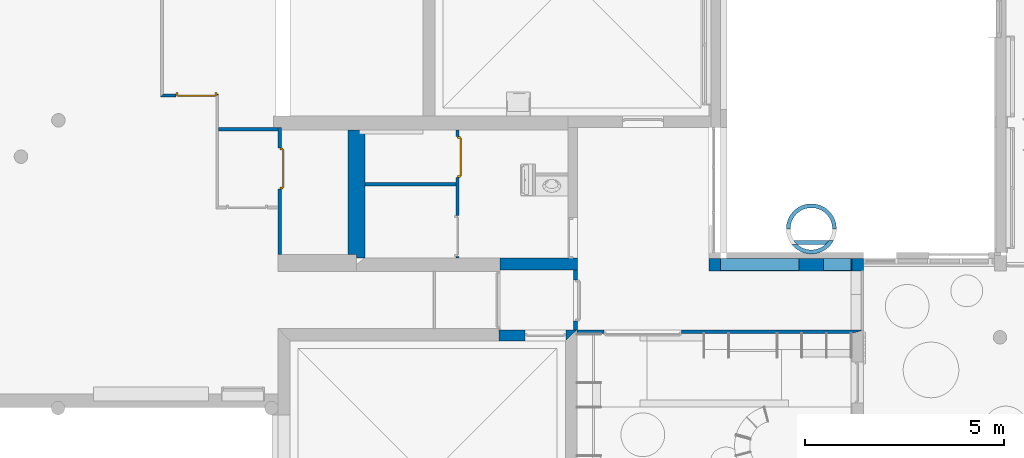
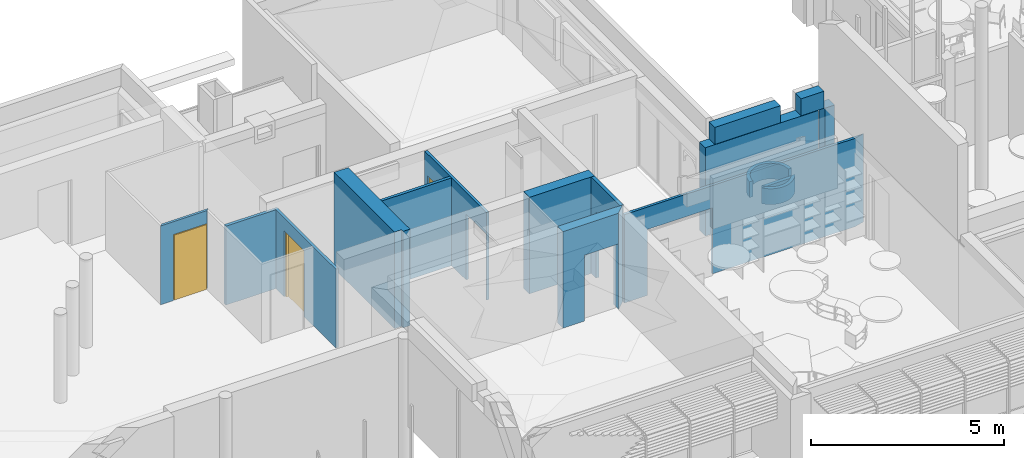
# One storey, part 22 of 64: 15 walls, 3 doors, 8 openings.
"""IFC2X3 building model written with IfcOpenShell, lengths in metres."""

from ifc_helpers import new_model, entity, si_unit, converted_unit, derived_unit, direction, frame, frame_2d, origin, origin_2d_with_axis, place, context, subcontext, project, spatial, polyline, circle_curve, parameter, trimmed, segment, composite_curve, rectangle, outline, extrude, faceted_brep, source, transform, mapped, material, layer, layer_set, layer_usage, type_object, type_shapes, element, fill, save


model = new_model("IFC2X3")

# Units and contexts
model_context = context("Model", 3, precision=1e-05, world=origin(), true_north=direction((6.123031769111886e-17, 1.0)))
body_context = subcontext(model_context, "Body", "Model", "MODEL_VIEW")
ifc_project = project(units=[si_unit("LENGTHUNIT", "METRE"), si_unit("AREAUNIT", "SQUARE_METRE"), si_unit("VOLUMEUNIT", "CUBIC_METRE"), converted_unit("PLANEANGLEUNIT", "DEGREE", entity("IfcRatioMeasure", 0.017453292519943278), si_unit("PLANEANGLEUNIT", "RADIAN"), dimensions=[0, 0, 0, 0, 0, 0, 0]), si_unit("MASSUNIT", "GRAM", prefix="KILO"), derived_unit("MASSDENSITYUNIT", [(si_unit("MASSUNIT", "GRAM", prefix="KILO"), 1), (si_unit("LENGTHUNIT", "METRE"), -3)]), derived_unit("MOMENTOFINERTIAUNIT", [(si_unit("LENGTHUNIT", "METRE"), 4)]), si_unit("TIMEUNIT", "SECOND"), si_unit("FREQUENCYUNIT", "HERTZ"), si_unit("THERMODYNAMICTEMPERATUREUNIT", "DEGREE_CELSIUS"), derived_unit("THERMALTRANSMITTANCEUNIT", [(si_unit("MASSUNIT", "GRAM", prefix="KILO"), 1), (si_unit("THERMODYNAMICTEMPERATUREUNIT", "KELVIN"), -1), (si_unit("TIMEUNIT", "SECOND"), -3)]), derived_unit("THERMALCONDUCTANCEUNIT", [(si_unit("MASSUNIT", "GRAM", prefix="KILO"), 1), (si_unit("LENGTHUNIT", "METRE"), 1), (si_unit("THERMODYNAMICTEMPERATUREUNIT", "KELVIN"), -1), (si_unit("TIMEUNIT", "SECOND"), -3)]), derived_unit("VOLUMETRICFLOWRATEUNIT", [(si_unit("LENGTHUNIT", "METRE"), 3), (si_unit("TIMEUNIT", "SECOND"), -1)]), derived_unit("MASSFLOWRATEUNIT", [(si_unit("MASSUNIT", "GRAM", prefix="KILO"), 1), (si_unit("TIMEUNIT", "SECOND"), -1)]), derived_unit("ROTATIONALFREQUENCYUNIT", [(si_unit("TIMEUNIT", "SECOND"), -1)]), si_unit("ELECTRICCURRENTUNIT", "AMPERE"), si_unit("ELECTRICVOLTAGEUNIT", "VOLT"), si_unit("POWERUNIT", "WATT"), si_unit("FORCEUNIT", "NEWTON", prefix="KILO"), si_unit("ILLUMINANCEUNIT", "LUX"), si_unit("LUMINOUSFLUXUNIT", "LUMEN"), si_unit("LUMINOUSINTENSITYUNIT", "CANDELA"), derived_unit("USERDEFINED", [(si_unit("MASSUNIT", "GRAM", prefix="KILO"), -1), (si_unit("LENGTHUNIT", "METRE"), -2), (si_unit("TIMEUNIT", "SECOND"), 3), (si_unit("LUMINOUSFLUXUNIT", "LUMEN"), 1)]), derived_unit("USERDEFINED", [(si_unit("MASSUNIT", "GRAM", prefix="KILO"), 1), (si_unit("LENGTHUNIT", "METRE"), 3), (si_unit("TIMEUNIT", "SECOND"), -3), (si_unit("ELECTRICCURRENTUNIT", "AMPERE"), -2)]), derived_unit("USERDEFINED", [(si_unit("LENGTHUNIT", "METRE"), 2), (si_unit("TIMEUNIT", "SECOND"), -2)]), derived_unit("SOUNDPOWERUNIT", [(si_unit("MASSUNIT", "GRAM", prefix="KILO"), 1), (si_unit("LENGTHUNIT", "METRE"), 2), (si_unit("TIMEUNIT", "SECOND"), -3)]), derived_unit("SOUNDPRESSUREUNIT", [(si_unit("MASSUNIT", "GRAM", prefix="KILO"), 1), (si_unit("LENGTHUNIT", "METRE"), -1), (si_unit("TIMEUNIT", "SECOND"), -2)]), derived_unit("LINEARVELOCITYUNIT", [(si_unit("LENGTHUNIT", "METRE"), 1), (si_unit("TIMEUNIT", "SECOND"), -1)]), si_unit("PRESSUREUNIT", "PASCAL"), derived_unit("USERDEFINED", [(si_unit("LENGTHUNIT", "METRE"), -2), (si_unit("MASSUNIT", "GRAM", prefix="KILO"), 1), (si_unit("TIMEUNIT", "SECOND"), -2)]), derived_unit("LINEARFORCEUNIT", [(si_unit("MASSUNIT", "GRAM", prefix="KILO"), 1), (si_unit("LENGTHUNIT", "METRE"), 1), (si_unit("TIMEUNIT", "SECOND"), -2), (si_unit("LENGTHUNIT", "METRE"), -1)]), derived_unit("PLANARFORCEUNIT", [(si_unit("MASSUNIT", "GRAM", prefix="KILO"), 1), (si_unit("LENGTHUNIT", "METRE"), 1), (si_unit("TIMEUNIT", "SECOND"), -2), (si_unit("LENGTHUNIT", "METRE"), -2)]), derived_unit("SPECIFICHEATCAPACITYUNIT", [(si_unit("LENGTHUNIT", "METRE"), 2), (si_unit("TIMEUNIT", "SECOND"), -2), (si_unit("THERMODYNAMICTEMPERATUREUNIT", "KELVIN"), -1)]), derived_unit("VAPORPERMEABILITYUNIT", [(si_unit("TIMEUNIT", "SECOND"), 1), (si_unit("LENGTHUNIT", "METRE"), -1)]), derived_unit("DYNAMICVISCOSITYUNIT", [(si_unit("MASSUNIT", "GRAM", prefix="KILO"), 1), (si_unit("LENGTHUNIT", "METRE"), -1), (si_unit("TIMEUNIT", "SECOND"), -1)]), derived_unit("THERMALEXPANSIONCOEFFICIENTUNIT", [(si_unit("THERMODYNAMICTEMPERATUREUNIT", "KELVIN"), -1)])], contexts=[model_context])

# Site, building, storey
site_placement = place(None, origin())
site = spatial("IfcSite", under=ifc_project, at=site_placement, Name="Default", CompositionType="ELEMENT")
building_placement = place(site_placement, origin())
building = spatial("IfcBuilding", under=site, at=building_placement, CompositionType="ELEMENT")
storey_placement = place(building_placement, origin())
storey = spatial("IfcBuildingStorey", under=building, at=storey_placement, Name="REZ-DE-CHAUSSÉE", CompositionType="ELEMENT", Elevation=0.0)

# Wall
wall_type_1 = type_object("IfcWallType", Name="MurExt-016", PredefinedType="NOTDEFINED")
wall_1_placement = place(storey_placement, frame((113.79075227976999, 15.007209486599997, 2.8)))
element("IfcWall", 1, at=wall_1_placement, inside=storey, type_object=wall_type_1, Name="MurExt-016 256304:MurExt-016 256304", ObjectType="MurExt-016 256304:MurExt-016 256304", context=body_context, shape_type="SweptSolid", body=[
    extrude(outline(polyline([(-0.3450000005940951, -0.15000000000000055), (0.34500000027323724, -0.15000000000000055), (0.34500000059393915, 0.15000000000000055), (-0.3450000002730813, 0.15000000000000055), (-0.3450000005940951, -0.15000000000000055)])), frame((2.935000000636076, 0.15000000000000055, 0.0)), (0.0, 0.0, 1.0), 0.5400000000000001),
    extrude(outline(polyline([(-0.9850000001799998, -0.15000000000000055), (0.9849999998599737, -0.15000000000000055), (0.9850000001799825, 0.15000000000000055), (-0.9849999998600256, 0.15000000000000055), (-0.9850000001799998, -0.15000000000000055)])), frame((0.9850000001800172, 0.15000000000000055, 0.0)), (0.0, 0.0, 1.0), 0.5400000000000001),
])

# Wall, opening
ifc_material_1 = material(Name="Appareillage - Pierre taillé")
ifc_layer_1 = layer(ifc_material_1, 0.31)
ifc_layer_set_1 = layer_set([ifc_layer_1], Name="Mur de base:Struct. - Pierre 310")
ifc_layer_usage_1 = layer_usage(ifc_layer_set_1, "AXIS2", "NEGATIVE", 0.155)
wall_type_2 = type_object("IfcWallType", Name="Mur de base:Struct. - Pierre 310", PredefinedType="STANDARD", material=ifc_layer_set_1)
wall_2_placement = place(storey_placement, frame((113.50075228, 15.1522094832, 0.0)))
wall_2 = element("IfcWallStandardCase", 2, at=wall_2_placement, inside=storey, type_object=wall_type_2, material=ifc_layer_usage_1, Name="MurExt-003", ObjectType="Mur de base:Struct. - Pierre 310", context=body_context, shape_type="SweptSolid", body=[
    extrude(rectangle(XDim=3.8800000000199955, YDim=0.310000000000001, at=frame_2d((1.9400000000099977, -1.0824674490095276e-15), x_axis=(-1.0, 0.0))), origin(), (0.0, 0.0, 1.0), 2.8),
])
opening_1_placement = place(wall_2_placement, origin())
element("IfcOpeningElement", 3, at=opening_1_placement, cuts=wall_2, Name="MurExt-003", ObjectType="Opening", context=body_context, shape_type="SweptSolid", body=[
    extrude(rectangle(XDim=2.76, YDim=0.1999999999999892, at=origin_2d_with_axis()), frame((3.48999999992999, -0.4650000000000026, 1.42), z_axis=(0.0, 1.0, 0.0), x_axis=(0.0, 0.0, 1.0)), (0.0, 0.0, 1.0), 0.620000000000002),
])

# Wall
wall_3_placement = place(storey_placement, frame((108.240752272, 15.1722094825, 0.0)))
element("IfcWallStandardCase", 4, at=wall_3_placement, inside=storey, type_object=wall_type_2, material=ifc_layer_usage_1, Name="MurExt-003", ObjectType="Mur de base:Struct. - Pierre 310", context=body_context, shape_type="SweptSolid", body=[
    extrude(rectangle(XDim=1.9500000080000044, YDim=0.30999999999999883, at=frame_2d((0.9750000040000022, 0.0), x_axis=(-1.0, 0.0))), origin(), (0.0, 0.0, 1.0), 3.06),
])

# Wall, opening
ifc_layer_2 = layer(ifc_material_1, 0.28)
ifc_layer_set_2 = layer_set([ifc_layer_2], Name="Mur de base:Struct. - Pierre 280")
ifc_layer_usage_2 = layer_usage(ifc_layer_set_2, "AXIS2", "NEGATIVE", 0.14)
wall_type_3 = type_object("IfcWallType", Name="Mur de base:Struct. - Pierre 280", PredefinedType="STANDARD", material=ifc_layer_set_2)
wall_4_placement = place(storey_placement, frame((108.21575227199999, 13.377209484, 0.0)))
wall_4 = element("IfcWallStandardCase", 5, at=wall_4_placement, inside=storey, type_object=wall_type_3, material=ifc_layer_usage_2, Name="MurExt-006", ObjectType="Mur de base:Struct. - Pierre 280", context=body_context, shape_type="SweptSolid", body=[
    extrude(outline(polyline([(0.0, -0.1399999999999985), (1.6650000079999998, -0.1399999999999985), (1.9550000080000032, 0.14000000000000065), (1.875000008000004, 0.14000000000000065), (0.02499999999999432, 0.14000000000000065), (0.0, 0.14000000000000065), (0.0, -0.1399999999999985)])), origin(), (0.0, 0.0, 1.0), 3.0600000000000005),
])
opening_2_placement = place(wall_4_placement, frame((-108.21575227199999, -13.377209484, 0.0)))
element("IfcOpeningElement", 6, at=opening_2_placement, cuts=wall_4, Name="MurExt-006", ObjectType="Opening", context=body_context, shape_type="SweptSolid", body=[
    extrude(rectangle(XDim=2.09, YDim=1.0300000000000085, at=origin_2d_with_axis()), frame((109.38075228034, 13.081409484, 1.045), z_axis=(0.0, 1.0, 0.0), x_axis=(0.0, 0.0, -1.0)), (0.0, 0.0, 1.0), 0.5915999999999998),
])

# Walls
ifc_material_2 = material(Name="Béton - Parpaing (Blocs)")
ifc_layer_3 = layer(ifc_material_2, 0.1)
ifc_layer_set_3 = layer_set([ifc_layer_3], Name="Mur de base:Struct. - Parpaing béton 100")
ifc_layer_usage_3 = layer_usage(ifc_layer_set_3, "AXIS2", "NEGATIVE", 0.05)
wall_type_4 = type_object("IfcWallType", Name="Mur de base:Struct. - Parpaing béton 100", PredefinedType="STANDARD", material=ifc_layer_set_3)
wall_5_placement = place(storey_placement, frame((116.51437374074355, 15.717209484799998, -0.1), z_axis=(0.0, 0.0, 1.0), x_axis=(-1.0, 0.0, 0.0)))
element("IfcWallStandardCase", 7, at=wall_5_placement, inside=storey, type_object=wall_type_4, material=ifc_layer_usage_3, Name="MurExt-004", ObjectType="Mur de base:Struct. - Parpaing béton 100", context=body_context, shape_type="SweptSolid", body=[
    extrude(outline(composite_curve([segment(trimmed(circle_curve(frame_2d((0.443621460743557, -0.33999999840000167), x_axis=(1.0, 0.0)), 0.53), [parameter(33.17306581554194)], [parameter(47.379008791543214)], True, "PARAMETER"), True, "CONTINUOUS"), segment(polyline([(0.8025086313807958, 0.04999999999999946), (0.08473429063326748, 0.04999999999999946)]), True, "CONTINUOUS"), segment(trimmed(circle_curve(frame_2d((0.4436214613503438, -0.3399999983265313), x_axis=(0.7853534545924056, 0.6190476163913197)), 0.53), [parameter(94.37437153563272)], [parameter(108.58031450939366)], True, "PARAMETER"), True, "CONTINUOUS"), segment(polyline([(0.0, -0.050000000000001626), (0.8872429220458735, -0.050000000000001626)]), True, "CONTINUOUS")], self_intersect=False)), origin(), (0.0, 0.0, 1.0), 0.49999999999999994),
])
ifc_layer_4 = layer(ifc_material_1, 0.41999999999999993)
ifc_layer_set_4 = layer_set([ifc_layer_4], Name="Mur de base:Struct. - Pierre 420")
ifc_layer_usage_4 = layer_usage(ifc_layer_set_4, "AXIS2", "NEGATIVE", 0.20999999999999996)
wall_type_5 = type_object("IfcWallType", Name="Mur de base:Struct. - Pierre 420", PredefinedType="STANDARD", material=ifc_layer_set_4)
wall_6_placement = place(storey_placement, frame((104.63075228, 18.5372094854, 0.0), z_axis=(0.0, 0.0, 1.0), x_axis=(0.0, -1.0, 0.0)))
element("IfcWallStandardCase", 8, at=wall_6_placement, inside=storey, type_object=wall_type_5, material=ifc_layer_usage_4, Name="MurExt-004", ObjectType="Mur de base:Struct. - Pierre 420", context=body_context, shape_type="SweptSolid", body=[
    extrude(outline(polyline([(-0.26250000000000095, 1.206250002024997), (-0.26250000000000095, -1.9237500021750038), (0.15750000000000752, -1.9237500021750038), (0.15750000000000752, -0.6137500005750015), (0.15750000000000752, -0.5237500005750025), (0.15750000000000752, 1.2862500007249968), (-0.05249999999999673, 1.2862500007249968), (-0.05249999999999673, 1.206250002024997), (-0.26250000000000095, 1.206250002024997)])), frame((1.9237500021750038, 0.05249999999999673, 0.0), z_axis=(0.0, 0.0, -1.0), x_axis=(0.0, 1.0, 0.0)), (0.0, 0.0, -1.0), 3.06),
])

# Wall, opening
ifc_layer_5 = layer(ifc_material_1, 0.1)
ifc_layer_set_5 = layer_set([ifc_layer_5], Name="Mur de base:Struct. - Pierre 100")
ifc_layer_usage_5 = layer_usage(ifc_layer_set_5, "AXIS2", "NEGATIVE", 0.05)
wall_type_6 = type_object("IfcWallType", Name="Mur de base:Struct. - Pierre 100", PredefinedType="STANDARD", material=ifc_layer_set_5)
wall_7_placement = place(storey_placement, frame((110.14075227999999, 15.017209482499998, 0.0), z_axis=(0.0, 0.0, 1.0), x_axis=(0.0, -1.0, 0.0)))
wall_7 = element("IfcWallStandardCase", 9, at=wall_7_placement, inside=storey, type_object=wall_type_6, material=ifc_layer_usage_5, Name="MurExt-004", ObjectType="Mur de base:Struct. - Pierre 100", context=body_context, shape_type="SweptSolid", body=[
    extrude(rectangle(XDim=1.4999999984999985, YDim=0.10000000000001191, at=frame_2d((0.7499999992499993, 0.0), x_axis=(-1.0, 0.0))), origin(), (0.0, 0.0, 1.0), 3.06),
])
opening_3_placement = place(wall_7_placement, frame((15.017209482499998, -110.14075227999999, 0.0), z_axis=(0.0, 0.0, 1.0), x_axis=(0.0, 1.0, 0.0)))
element("IfcOpeningElement", 10, at=opening_3_placement, cuts=wall_7, Name="MurExt-004", ObjectType="Opening", context=body_context, shape_type="SweptSolid", body=[
    extrude(rectangle(XDim=2.09, YDim=1.0299999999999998, at=frame_2d((0.0, 0.0), x_axis=(0.0, 1.0))), frame((109.75315227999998, 14.257209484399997, 1.045), z_axis=(1.0, 0.0, 0.0), x_axis=(0.0, -1.0, 0.0)), (0.0, 0.0, 1.0), 0.775199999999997),
])

# Walls
ifc_layer_usage_6 = layer_usage(ifc_layer_set_5, "AXIS2", "POSITIVE", -0.05)
wall_8_placement = place(storey_placement, frame((115.49075228, 16.057209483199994, -0.1)))
element("IfcWallStandardCase", 11, at=wall_8_placement, inside=storey, type_object=wall_type_6, material=ifc_layer_usage_6, Name="MurExt-003", ObjectType="Mur de base:Struct. - Pierre 100", context=body_context, shape_type="SweptSolid", body=[
    extrude(outline(composite_curve([segment(trimmed(circle_curve(frame_2d((0.5800000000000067, 0.0), x_axis=(1.0, 0.0)), 0.63), [parameter(359.9999947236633)], [parameter(180.00000000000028)], True, "PARAMETER"), True, "CONTINUOUS"), segment(polyline([(-0.04999999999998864, 0.0), (0.050000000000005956, 0.0)]), True, "CONTINUOUS"), segment(trimmed(circle_curve(frame_2d((0.5800000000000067, 0.0), x_axis=(1.0, 0.0)), 0.53), [parameter(359.9999947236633)], [parameter(180.00000000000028)], True, "PARAMETER"), False, "CONTINUOUS"), segment(polyline([(1.1100000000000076, -4.880739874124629e-08), (1.2100000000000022, -5.80163477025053e-08)]), True, "CONTINUOUS")], self_intersect=False)), origin(), (0.0, 0.0, 1.0), 0.49999999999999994),
])
wall_9_placement = place(storey_placement, frame((116.5856498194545, 15.790225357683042, -0.1), z_axis=(0.0, 0.0, 1.0), x_axis=(-0.7853534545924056, -0.6190476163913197, 0.0)))
element("IfcWallStandardCase", 12, at=wall_9_placement, inside=storey, type_object=wall_type_6, material=ifc_layer_usage_6, Name="MurExt-004", ObjectType="Mur de base:Struct. - Pierre 100", context=body_context, shape_type="SweptSolid", body=[
    extrude(outline(composite_curve([segment(trimmed(circle_curve(frame_2d((0.23910067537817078, -0.5284230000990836), x_axis=(1.0, 0.0)), 0.63), [parameter(359.9999999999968)], [parameter(114.34578595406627)], True, "PARAMETER"), True, "CONTINUOUS"), segment(polyline([(-0.0206121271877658, 0.045553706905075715), (0.07022483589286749, -0.026047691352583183)]), True, "CONTINUOUS"), segment(trimmed(circle_curve(frame_2d((0.23910067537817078, -0.5284230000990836), x_axis=(1.0, 0.0)), 0.53), [parameter(94.37437153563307)], [parameter(108.58031450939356)], True, "PARAMETER"), False, "CONTINUOUS"), segment(trimmed(circle_curve(frame_2d((0.23910067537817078, -0.5284230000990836), x_axis=(1.0, 0.0)), 0.53), [parameter(9.132389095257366)], [parameter(94.37437153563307)], True, "PARAMETER"), False, "CONTINUOUS"), segment(polyline([(0.7623825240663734, -0.444303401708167), (0.8691006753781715, -0.5284230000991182)]), True, "CONTINUOUS")], self_intersect=False)), origin(), (0.0, 0.0, 1.0), 0.49999999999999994),
])

# Wall, opening, door
ifc_layer_6 = layer(ifc_material_1, 0.07)
ifc_layer_set_6 = layer_set([ifc_layer_6], Name="Mur de base:Struct. - Pierre 70")
ifc_layer_usage_7 = layer_usage(ifc_layer_set_6, "AXIS2", "NEGATIVE", 0.035)
wall_type_7 = type_object("IfcWallType", Name="Mur de base:Struct. - Pierre 70", PredefinedType="STANDARD", material=ifc_layer_set_6)
wall_10_placement = place(storey_placement, frame((101.16075237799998, 19.4122095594, 0.0), z_axis=(0.0, 0.0, 1.0), x_axis=(-1.0, 0.0, 0.0)))
wall_10 = element("IfcWallStandardCase", 13, at=wall_10_placement, inside=storey, type_object=wall_type_7, material=ifc_layer_usage_7, Name="MurExt-015", ObjectType="Mur de base:Struct. - Pierre 70", context=body_context, shape_type="SweptSolid", body=[
    extrude(outline(polyline([(0.0, -0.03499999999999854), (1.3900002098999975, -0.03499999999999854), (1.4600002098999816, 0.035000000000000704), (0.06999999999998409, 0.035000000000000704), (0.0, -0.03499999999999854)])), origin(), (0.0, 0.0, 1.0), 2.4999999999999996),
])
opening_4_placement = place(wall_10_placement, frame((101.16075237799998, 19.4122095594, 0.0), z_axis=(0.0, 0.0, 1.0), x_axis=(-1.0, 0.0, 0.0)))
opening_4 = element("IfcOpeningElement", 14, at=opening_4_placement, cuts=wall_10, Name="MurExt-015", ObjectType="Opening", context=body_context, shape_type="SweptSolid", body=[
    extrude(rectangle(XDim=2.09, YDim=1.0300000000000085, at=frame_2d((0.0, 0.0), x_axis=(0.0, 1.0))), frame((100.601130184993, 19.483609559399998, 1.045), z_axis=(0.0, -1.0, 0.0), x_axis=(-1.0, 0.0, 0.0)), (0.0, 0.0, 1.0), 0.14279999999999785),
])
ifc_material_3 = material(Name="Peinture - Gris clair")
door_style_1 = type_object("IfcDoorStyle", Name="Por-007", ConstructionType="NOTDEFINED", OperationType="SINGLE_SWING_LEFT", ParameterTakesPrecedence=False, Sizeable=False, material=ifc_material_3)
shared_shape_1 = source(origin(), body_context, "Body", "Brep", [
    faceted_brep([(0.0, -0.0714, 0.0), (0.0, -0.0714, 2.09), (1.03, -0.0714, 2.09), (1.03, -0.0714, 0.0), (0.995, -0.0714, 0.0), (0.995, -0.0714, 2.055), (0.03500000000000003, -0.0714, 2.055), (0.03500000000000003, -0.0714, 0.0), (0.0, -0.1414, 0.0), (0.0, -0.1414, 2.09), (1.03, -0.1414, 2.09), (1.03, -0.1414, 0.0), (0.98, -0.1414, 0.0), (0.98, -0.0864, 0.0), (0.995, -0.0864, 0.0), (0.995, -0.0864, 2.055), (0.03500000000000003, -0.0864, 2.055), (0.03500000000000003, -0.0864, 0.0), (0.05, -0.0864, 0.0), (0.05, -0.1414, 0.0), (0.98, -0.1414, 2.04), (0.05, -0.1414, 2.04), (0.98, -0.0864, 2.04), (0.05, -0.0864, 2.04), (0.03500000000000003, -0.046400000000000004, 0.0), (0.995, -0.046400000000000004, 0.0), (0.03500000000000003, -0.046400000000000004, 2.055), (0.995, -0.046400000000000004, 2.055)], [[[0, 1, 2, 3, 4, 5, 6, 7]], [[8, 9, 1, 0]], [[9, 10, 2, 1]], [[10, 11, 3, 2]], [[3, 11, 12, 13, 14, 4]], [[5, 4, 14, 15]], [[6, 5, 15, 16]], [[7, 6, 16, 17]], [[0, 7, 17, 18, 19, 8]], [[19, 8, 9, 10, 11, 12, 20, 21]], [[22, 13, 12, 20]], [[17, 16, 15, 14, 13, 22, 23, 18]], [[18, 23, 21, 19]], [[23, 22, 20, 21]], [[24, 25, 14, 17]], [[24, 26, 27, 25]], [[25, 27, 15, 14]], [[17, 14, 15, 16]], [[26, 24, 17, 16]], [[27, 26, 16, 15]]]),
])
type_shapes(door_style_1, [shared_shape_1])
door_1_placement = place(opening_4_placement, frame((101.11613018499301, 19.3408095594, 0.0), z_axis=(0.0, 0.0, 1.0), x_axis=(-1.0, 0.0, 0.0)))
door_1 = element("IfcDoor", 15, at=door_1_placement, inside=storey, type_object=door_style_1, material=ifc_material_3, Name="Por-007 19986:Por-007 19986", ObjectType="Por-007 19986:Por-007 19986", OverallHeight=2.09, OverallWidth=1.0300000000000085, context=body_context, shape_type="MappedRepresentation", body=[
    mapped(shared_shape_1, transform((0.0, 0.0, 0.0), scale=1.0)),
])
fill(opening_4, door_1)

ifc_layer_7 = layer(ifc_material_1, 0.08)
ifc_layer_set_7 = layer_set([ifc_layer_7], Name="Mur de base:Struct. - Pierre 80")
ifc_layer_usage_8 = layer_usage(ifc_layer_set_7, "AXIS2", "NEGATIVE", 0.04)
wall_type_8 = type_object("IfcWallType", Name="Mur de base:Struct. - Pierre 80", PredefinedType="STANDARD", material=ifc_layer_set_7)
wall_11_placement = place(storey_placement, frame((102.70075228, 15.407209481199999, 0.0), z_axis=(0.0, 0.0, 1.0), x_axis=(0.0, 1.0, 0.0)))
wall_11 = element("IfcWallStandardCase", 16, at=wall_11_placement, inside=storey, type_object=wall_type_8, material=ifc_layer_usage_8, Name="MurExt-012", ObjectType="Mur de base:Struct. - Pierre 80", context=body_context, shape_type="SweptSolid", body=[
    extrude(rectangle(XDim=3.1999999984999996, YDim=0.08000000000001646, at=frame_2d((1.5999999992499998, 0.0), x_axis=(-1.0, 0.0))), origin(), (0.0, 0.0, 1.0), 2.4999999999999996),
])
opening_5_placement = place(wall_11_placement, frame((-15.407209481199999, 102.70075228, 0.0), z_axis=(0.0, 0.0, 1.0), x_axis=(0.0, -1.0, 0.0)))
opening_5 = element("IfcOpeningElement", 17, at=opening_5_placement, cuts=wall_11, Name="MurExt-012", ObjectType="Opening", context=body_context, shape_type="SweptSolid", body=[
    extrude(rectangle(XDim=2.09, YDim=1.0299999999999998, at=origin_2d_with_axis()), frame((102.78235228, 17.57720948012, 1.045), z_axis=(-1.0, 0.0, 0.0), x_axis=(0.0, 0.0, -1.0)), (0.0, 0.0, 1.0), 0.16319999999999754),
])
door_style_2 = type_object("IfcDoorStyle", Name="Por-005", ConstructionType="NOTDEFINED", OperationType="SINGLE_SWING_LEFT", ParameterTakesPrecedence=False, Sizeable=False, material=ifc_material_3)
shared_shape_2 = source(origin(), body_context, "Body", "Brep", [
    faceted_brep([(0.0, 0.16159999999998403, 0.0), (0.0, 0.16159999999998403, 2.09), (1.0300000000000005, 0.16159999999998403, 2.09), (1.0300000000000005, 0.16159999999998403, 0.0), (0.9950000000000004, 0.16159999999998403, 0.0), (0.9950000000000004, 0.16159999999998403, 2.055), (0.0350000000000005, 0.16159999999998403, 2.055), (0.0350000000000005, 0.16159999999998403, 0.0), (0.0, 0.08159999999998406, 0.0), (0.0, 0.08159999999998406, 2.09), (1.0300000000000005, 0.08159999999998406, 2.09), (1.0300000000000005, 0.08159999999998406, 0.0), (0.9800000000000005, 0.08159999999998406, 0.0), (0.9800000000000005, 0.14659999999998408, 0.0), (0.9950000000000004, 0.14659999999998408, 0.0), (0.9950000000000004, 0.14659999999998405, 2.055), (0.0350000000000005, 0.14659999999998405, 2.055), (0.0350000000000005, 0.14659999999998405, 0.0), (0.050000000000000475, 0.14659999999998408, 0.0), (0.050000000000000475, 0.08159999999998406, 0.0), (0.9800000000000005, 0.08159999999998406, 2.04), (0.050000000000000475, 0.08159999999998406, 2.04), (0.9800000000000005, 0.14659999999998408, 2.04), (0.050000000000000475, 0.14659999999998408, 2.04), (0.0350000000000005, 0.18659999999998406, 0.0), (0.9950000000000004, 0.18659999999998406, 0.0), (0.0350000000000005, 0.18659999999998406, 2.055), (0.9950000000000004, 0.18659999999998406, 2.055)], [[[0, 1, 2, 3, 4, 5, 6, 7]], [[8, 9, 1, 0]], [[9, 10, 2, 1]], [[10, 11, 3, 2]], [[3, 11, 12, 13, 14, 4]], [[5, 4, 14, 15]], [[6, 5, 15, 16]], [[7, 6, 16, 17]], [[0, 7, 17, 18, 19, 8]], [[19, 8, 9, 10, 11, 12, 20, 21]], [[22, 13, 12, 20]], [[17, 16, 15, 14, 13, 22, 23, 18]], [[18, 23, 21, 19]], [[23, 22, 20, 21]], [[24, 25, 14, 17]], [[24, 26, 27, 25]], [[25, 27, 15, 14]], [[17, 14, 15, 16]], [[26, 24, 17, 16]], [[27, 26, 16, 15]]]),
])
type_shapes(door_style_2, [shared_shape_2])
door_2_placement = place(opening_5_placement, frame((102.61915228, 18.09220948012, 0.0), z_axis=(0.0, 0.0, 1.0), x_axis=(0.0, -1.0, 0.0)))
door_2 = element("IfcDoor", 18, at=door_2_placement, inside=storey, type_object=door_style_2, material=ifc_material_3, Name="Por-005 20335:Por-005 20335", ObjectType="Por-005 20335:Por-005 20335", OverallHeight=2.09, OverallWidth=1.0299999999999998, context=body_context, shape_type="MappedRepresentation", body=[
    mapped(shared_shape_2, transform((0.0, 0.0, 0.0), scale=1.0)),
])
fill(opening_5, door_2)

# Wall, openings, door
wall_12_placement = place(storey_placement, frame((107.17075227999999, 18.5372094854, 0.0), z_axis=(0.0, 0.0, 1.0), x_axis=(0.0, -1.0, 0.0)))
wall_12 = element("IfcWallStandardCase", 19, at=wall_12_placement, inside=storey, type_object=wall_type_8, material=ifc_layer_usage_8, Name="MurExt-018", ObjectType="Mur de base:Struct. - Pierre 80", context=body_context, shape_type="SweptSolid", body=[
    extrude(rectangle(XDim=3.2100000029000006, YDim=0.08000000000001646, at=frame_2d((1.6050000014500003, 0.0), x_axis=(-1.0, 0.0))), origin(), (0.0, 0.0, 1.0), 2.78),
])
opening_6_placement = place(wall_12_placement, frame((18.5372094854, -107.17075227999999, 0.0), z_axis=(0.0, 0.0, 1.0), x_axis=(0.0, 1.0, 0.0)))
opening_6 = element("IfcOpeningElement", 20, at=opening_6_placement, cuts=wall_12, Name="MurExt-018", ObjectType="Opening", context=body_context, shape_type="SweptSolid", body=[
    extrude(rectangle(XDim=2.09, YDim=1.0299999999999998, at=frame_2d((0.0, 0.0), x_axis=(0.0, 1.0))), frame((107.08915228, 17.86720948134, 1.045), z_axis=(1.0, 0.0, 0.0), x_axis=(0.0, -1.0, 0.0)), (0.0, 0.0, 1.0), 0.16319999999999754),
])
opening_7_placement = place(wall_12_placement, frame((18.5372094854, -107.17075227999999, 0.0), z_axis=(0.0, 0.0, 1.0), x_axis=(0.0, 1.0, 0.0)))
element("IfcOpeningElement", 21, at=opening_7_placement, cuts=wall_12, Name="MurExt-018", ObjectType="Opening", context=body_context, shape_type="SweptSolid", body=[
    extrude(rectangle(XDim=2.09, YDim=1.0299999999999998, at=origin_2d_with_axis()), frame((107.08915228, 15.877209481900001, 1.045), z_axis=(1.0, 0.0, 0.0), x_axis=(0.0, 0.0, 1.0)), (0.0, 0.0, 1.0), 0.16319999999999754),
])
door_3_placement = place(opening_6_placement, frame((107.08915228, 18.38220948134, 0.0), z_axis=(0.0, 0.0, 1.0), x_axis=(0.0, -1.0, 0.0)))
door_3 = element("IfcDoor", 22, at=door_3_placement, inside=storey, type_object=door_style_2, material=ifc_material_3, Name="Por-005 20335:Por-005 20335", ObjectType="Por-005 20335:Por-005 20335", OverallHeight=2.09, OverallWidth=1.0299999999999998, context=body_context, shape_type="MappedRepresentation", body=[
    mapped(shared_shape_2, transform((0.0, 0.0, 0.0), scale=1.0)),
])
fill(opening_6, door_3)

# Wall, opening
wall_13_placement = place(storey_placement, frame((110.17075228, 13.4672094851, 0.0)))
wall_13 = element("IfcWallStandardCase", 23, at=wall_13_placement, inside=storey, type_object=wall_type_8, material=ifc_layer_usage_8, Name="MurExt-007", ObjectType="Mur de base:Struct. - Pierre 80", context=body_context, shape_type="SweptSolid", body=[
    extrude(outline(polyline([(0.0, -0.03999999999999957), (6.920000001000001, -0.03999999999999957), (7.2100000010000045, 0.03999999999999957), (0.0, 0.03999999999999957), (0.0, -0.03999999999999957)])), origin(), (0.0, 0.0, 1.0), 2.8),
])
opening_8_placement = place(wall_13_placement, frame((-110.17075228, -13.4672094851, 0.0)))
element("IfcOpeningElement", 24, at=opening_8_placement, cuts=wall_13, Name="MurExt-007", ObjectType="Opening", context=body_context, shape_type="SweptSolid", body=[
    extrude(rectangle(XDim=2.09, YDim=1.9500000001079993, at=frame_2d((0.0, 8.659739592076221e-15), x_axis=(1.0, 0.0))), frame((111.83075228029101, 13.3856094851, 1.045), z_axis=(0.0, 1.0, 0.0), x_axis=(0.0, 0.0, -1.0)), (0.0, 0.0, 1.0), 0.16320000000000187),
])

# Walls
ifc_layer_8 = layer(ifc_material_1, 0.09)
ifc_layer_set_8 = layer_set([ifc_layer_8], Name="Mur de base:Struct. - Pierre 90")
ifc_layer_usage_9 = layer_usage(ifc_layer_set_8, "AXIS2", "NEGATIVE", 0.045)
wall_type_9 = type_object("IfcWallType", Name="Mur de base:Struct. - Pierre 90", PredefinedType="STANDARD", material=ifc_layer_set_8)
wall_14_placement = place(storey_placement, frame((102.66075227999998, 18.5622094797, 0.0), z_axis=(0.0, 0.0, 1.0), x_axis=(-1.0, 0.0, 0.0)))
element("IfcWallStandardCase", 25, at=wall_14_placement, inside=storey, type_object=wall_type_9, material=ifc_layer_usage_9, Name="MurExt-013", ObjectType="Mur de base:Struct. - Pierre 90", context=body_context, shape_type="SweptSolid", body=[
    extrude(rectangle(XDim=1.4999999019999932, YDim=0.0900000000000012, at=frame_2d((0.7499999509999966, 0.0), x_axis=(-1.0, 0.0))), origin(), (0.0, 0.0, 1.0), 2.4999999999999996),
])
wall_15_placement = place(storey_placement, frame((104.84075227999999, 17.182209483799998, 0.0)))
element("IfcWallStandardCase", 26, at=wall_15_placement, inside=storey, type_object=wall_type_9, material=ifc_layer_usage_9, Name="MurExt-019", ObjectType="Mur de base:Struct. - Pierre 90", context=body_context, shape_type="SweptSolid", body=[
    extrude(rectangle(XDim=2.289999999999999, YDim=0.0900000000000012, at=frame_2d((1.1449999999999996, 0.0), x_axis=(-1.0, 0.0))), origin(), (0.0, 0.0, 1.0), 2.78),
])

save(model, "model.ifc")
